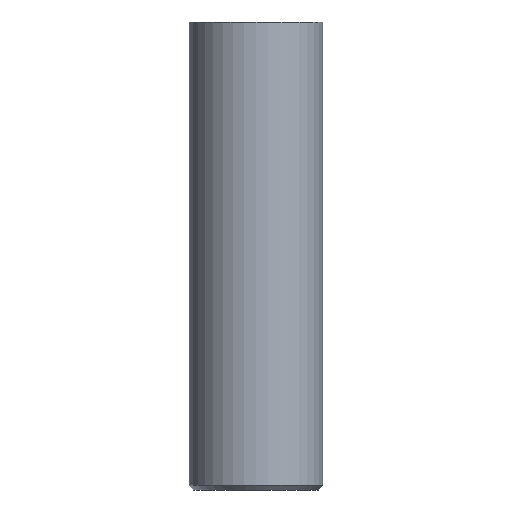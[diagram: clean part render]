
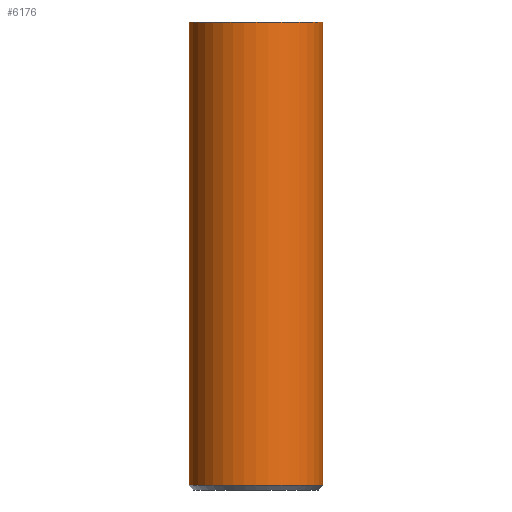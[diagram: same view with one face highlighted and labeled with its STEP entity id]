
A CAD part, front view. The second image highlights one B-rep face of the part: STEP entity #6176.
In plain terms, the highlighted cylindrical face has radius 2 mm (diameter 4 mm), a full revolution.
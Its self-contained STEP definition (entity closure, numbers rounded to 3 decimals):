
#16=CYLINDRICAL_SURFACE('',#6308,2.);
#25=CIRCLE('',#6290,2.);
#32=CIRCLE('',#6307,2.);
#490=FACE_OUTER_BOUND('',#857,.T.);
#857=EDGE_LOOP('',(#5556,#5557,#5558,#5559));
#1305=LINE('',#12784,#1754);
#1754=VECTOR('',#6970,2.);
#2830=VERTEX_POINT('',#12752);
#2838=VERTEX_POINT('',#12780);
#3741=EDGE_CURVE('',#2830,#2830,#25,.T.);
#3751=EDGE_CURVE('',#2838,#2838,#32,.T.);
#3753=EDGE_CURVE('',#2830,#2838,#1305,.T.);
#5556=ORIENTED_EDGE('',*,*,#3741,.F.);
#5557=ORIENTED_EDGE('',*,*,#3753,.T.);
#5558=ORIENTED_EDGE('',*,*,#3751,.F.);
#5559=ORIENTED_EDGE('',*,*,#3753,.F.);
#6176=ADVANCED_FACE('',(#490),#16,.T.);
#6290=AXIS2_PLACEMENT_3D('',#12753,#6928,#6929);
#6307=AXIS2_PLACEMENT_3D('',#12781,#6965,#6966);
#6308=AXIS2_PLACEMENT_3D('',#12783,#6968,#6969);
#6928=DIRECTION('center_axis',(0.,0.,1.));
#6929=DIRECTION('ref_axis',(1.,0.,0.));
#6965=DIRECTION('center_axis',(0.,0.,-1.));
#6966=DIRECTION('ref_axis',(1.,0.,0.));
#6968=DIRECTION('center_axis',(0.,0.,1.));
#6969=DIRECTION('ref_axis',(1.,0.,0.));
#6970=DIRECTION('',(0.,0.,-1.));
#12752=CARTESIAN_POINT('',(-2.,0.,14.));
#12753=CARTESIAN_POINT('Origin',(0.,0.,14.));
#12780=CARTESIAN_POINT('',(-2.,0.,0.14));
#12781=CARTESIAN_POINT('Origin',(0.,0.,0.14));
#12783=CARTESIAN_POINT('Origin',(0.,0.,0.));
#12784=CARTESIAN_POINT('',(-2.,0.,0.));
